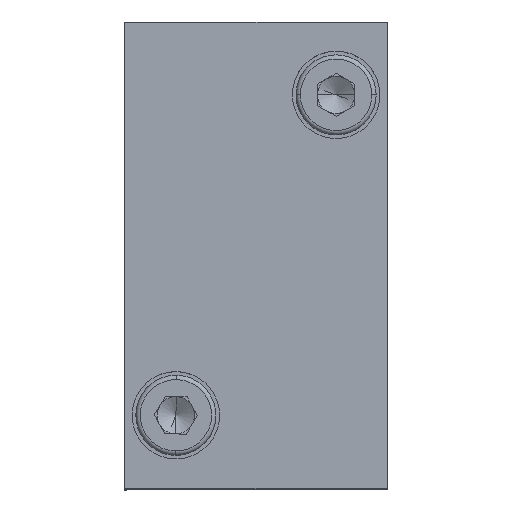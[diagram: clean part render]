
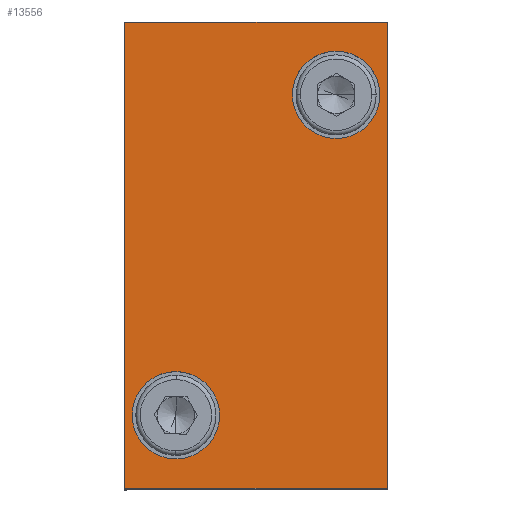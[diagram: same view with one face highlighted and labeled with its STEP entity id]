
A CAD part, top view. The second image highlights one B-rep face of the part: STEP entity #13556.
In plain terms, the highlighted planar face has unit normal (0, 0, 1).
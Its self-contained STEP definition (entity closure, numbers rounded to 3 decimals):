
#258 = LINE ( 'NONE', #17996, #6640 ) ;
#667 = AXIS2_PLACEMENT_3D ( 'NONE', #7655, #26605, #10358 ) ;
#941 = DIRECTION ( 'NONE',  ( 0., -1., 0. ) ) ;
#959 = EDGE_CURVE ( 'NONE', #23368, #27406, #7215, .T. ) ;
#1113 = CARTESIAN_POINT ( 'NONE',  ( 14.789, 6.389, 57.889 ) ) ;
#1392 = DIRECTION ( 'NONE',  ( 0., 0., 1. ) ) ;
#1595 = ORIENTED_EDGE ( 'NONE', *, *, #16824, .F. ) ;
#1848 = DIRECTION ( 'NONE',  ( 0., -1., 0. ) ) ;
#2879 = CARTESIAN_POINT ( 'NONE',  ( 14.789, 12.389, 57.889 ) ) ;
#2992 = DIRECTION ( 'NONE',  ( 0., 0., 1. ) ) ;
#3135 = VERTEX_POINT ( 'NONE', #1113 ) ;
#3694 = FACE_OUTER_BOUND ( 'NONE', #15241, .T. ) ;
#3741 = VERTEX_POINT ( 'NONE', #13028 ) ;
#4247 = CARTESIAN_POINT ( 'NONE',  ( 14.789, 9.389, 57.889 ) ) ;
#6242 = ORIENTED_EDGE ( 'NONE', *, *, #7765, .F. ) ;
#6640 = VECTOR ( 'NONE', #7241, 1000. ) ;
#6963 = DIRECTION ( 'NONE',  ( -1., 0., 0. ) ) ;
#7215 = CIRCLE ( 'NONE', #17779, 3. ) ;
#7241 = DIRECTION ( 'NONE',  ( 1., 0., 0. ) ) ;
#7655 = CARTESIAN_POINT ( 'NONE',  ( 29.289, 4.389, 57.889 ) ) ;
#7662 = DIRECTION ( 'NONE',  ( 0., -1., 0. ) ) ;
#7765 = EDGE_CURVE ( 'NONE', #27406, #23368, #25498, .T. ) ;
#7768 = VERTEX_POINT ( 'NONE', #13350 ) ;
#7801 = CARTESIAN_POINT ( 'NONE',  ( 29.289, 4.389, 57.889 ) ) ;
#8239 = VERTEX_POINT ( 'NONE', #2879 ) ;
#8426 = EDGE_CURVE ( 'NONE', #3135, #8239, #9728, .T. ) ;
#9425 = EDGE_CURVE ( 'NONE', #28548, #7768, #14329, .T. ) ;
#9469 = VERTEX_POINT ( 'NONE', #31474 ) ;
#9728 = CIRCLE ( 'NONE', #18392, 3. ) ;
#10358 = DIRECTION ( 'NONE',  ( 0., -1., 0. ) ) ;
#10504 = DIRECTION ( 'NONE',  ( 0., -1., 0. ) ) ;
#10889 = FACE_BOUND ( 'NONE', #22473, .T. ) ;
#12022 = EDGE_LOOP ( 'NONE', ( #24359, #1595 ) ) ;
#12609 = LINE ( 'NONE', #26443, #26191 ) ;
#13028 = CARTESIAN_POINT ( 'NONE',  ( 29.289, 36.389, 57.889 ) ) ;
#13350 = CARTESIAN_POINT ( 'NONE',  ( 11.289, 4.389, 57.889 ) ) ;
#13556 = ADVANCED_FACE ( 'NONE', ( #10889, #18956, #3694 ), #34677, .T. ) ;
#14250 = CARTESIAN_POINT ( 'NONE',  ( 29.289, 4.389, 57.889 ) ) ;
#14329 = LINE ( 'NONE', #23175, #35126 ) ;
#14893 = ORIENTED_EDGE ( 'NONE', *, *, #14928, .F. ) ;
#14928 = EDGE_CURVE ( 'NONE', #9469, #3741, #258, .T. ) ;
#15008 = DIRECTION ( 'NONE',  ( 0., 0., 1. ) ) ;
#15241 = EDGE_LOOP ( 'NONE', ( #26000, #15765, #14893, #16478 ) ) ;
#15765 = ORIENTED_EDGE ( 'NONE', *, *, #27703, .F. ) ;
#16478 = ORIENTED_EDGE ( 'NONE', *, *, #18117, .F. ) ;
#16824 = EDGE_CURVE ( 'NONE', #8239, #3135, #27271, .T. ) ;
#17174 = DIRECTION ( 'NONE',  ( 0., 0., 1. ) ) ;
#17308 = LINE ( 'NONE', #7801, #30886 ) ;
#17779 = AXIS2_PLACEMENT_3D ( 'NONE', #27636, #1392, #28430 ) ;
#17996 = CARTESIAN_POINT ( 'NONE',  ( 11.289, 36.389, 57.889 ) ) ;
#18117 = EDGE_CURVE ( 'NONE', #7768, #9469, #12609, .T. ) ;
#18392 = AXIS2_PLACEMENT_3D ( 'NONE', #4247, #2992, #1848 ) ;
#18956 = FACE_BOUND ( 'NONE', #12022, .T. ) ;
#19538 = CARTESIAN_POINT ( 'NONE',  ( 25.789, 28.389, 57.889 ) ) ;
#22473 = EDGE_LOOP ( 'NONE', ( #32545, #6242 ) ) ;
#23175 = CARTESIAN_POINT ( 'NONE',  ( 11.289, 4.389, 57.889 ) ) ;
#23368 = VERTEX_POINT ( 'NONE', #19538 ) ;
#23394 = AXIS2_PLACEMENT_3D ( 'NONE', #33411, #17174, #941 ) ;
#24359 = ORIENTED_EDGE ( 'NONE', *, *, #8426, .F. ) ;
#25498 = CIRCLE ( 'NONE', #26546, 3. ) ;
#26000 = ORIENTED_EDGE ( 'NONE', *, *, #9425, .F. ) ;
#26191 = VECTOR ( 'NONE', #34632, 1000. ) ;
#26443 = CARTESIAN_POINT ( 'NONE',  ( 11.289, 4.389, 57.889 ) ) ;
#26546 = AXIS2_PLACEMENT_3D ( 'NONE', #33744, #15008, #7662 ) ;
#26605 = DIRECTION ( 'NONE',  ( 0., 0., 1. ) ) ;
#27271 = CIRCLE ( 'NONE', #23394, 3. ) ;
#27406 = VERTEX_POINT ( 'NONE', #32974 ) ;
#27636 = CARTESIAN_POINT ( 'NONE',  ( 25.789, 31.389, 57.889 ) ) ;
#27703 = EDGE_CURVE ( 'NONE', #3741, #28548, #17308, .T. ) ;
#28430 = DIRECTION ( 'NONE',  ( 0., -1., 0. ) ) ;
#28548 = VERTEX_POINT ( 'NONE', #14250 ) ;
#30886 = VECTOR ( 'NONE', #10504, 1000. ) ;
#31474 = CARTESIAN_POINT ( 'NONE',  ( 11.289, 36.389, 57.889 ) ) ;
#32545 = ORIENTED_EDGE ( 'NONE', *, *, #959, .F. ) ;
#32974 = CARTESIAN_POINT ( 'NONE',  ( 25.789, 34.389, 57.889 ) ) ;
#33411 = CARTESIAN_POINT ( 'NONE',  ( 14.789, 9.389, 57.889 ) ) ;
#33744 = CARTESIAN_POINT ( 'NONE',  ( 25.789, 31.389, 57.889 ) ) ;
#34632 = DIRECTION ( 'NONE',  ( 0., 1., 0. ) ) ;
#34677 = PLANE ( 'NONE',  #667 ) ;
#35126 = VECTOR ( 'NONE', #6963, 1000. ) ;
